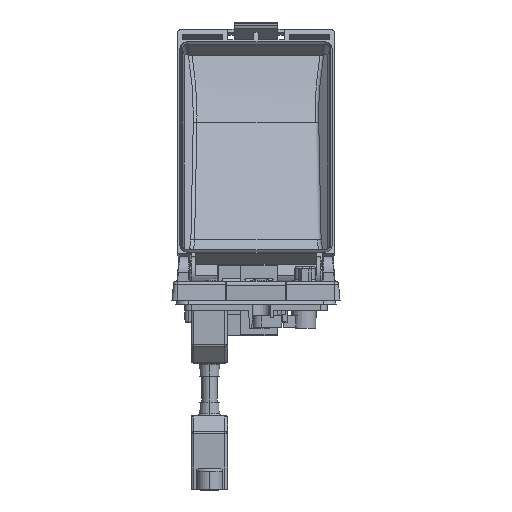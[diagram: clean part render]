
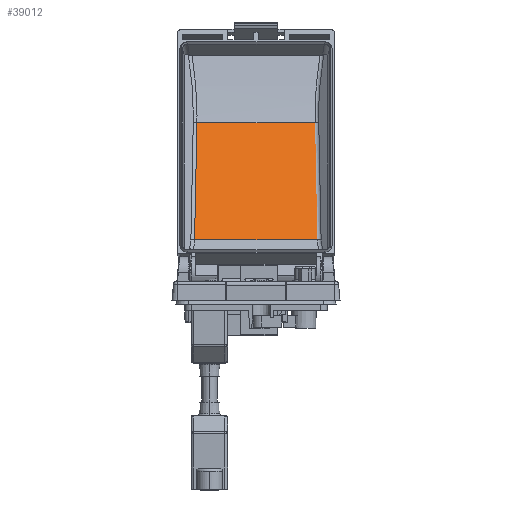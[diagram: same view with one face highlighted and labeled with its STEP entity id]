
A CAD part, left-side view. The second image highlights one B-rep face of the part: STEP entity #39012.
In plain terms, the highlighted planar face has unit normal (-0.865, 0, 0.502).
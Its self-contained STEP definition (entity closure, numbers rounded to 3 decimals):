
#340 = CARTESIAN_POINT ( 'NONE',  ( 89.141, 196.683, 46.264 ) ) ;
#3608 = DIRECTION ( 'NONE',  ( 0.502, -0.017, 0.865 ) ) ;
#5992 = CARTESIAN_POINT ( 'NONE',  ( 97.905, 189.435, 61.35 ) ) ;
#13393 = LINE ( 'NONE', #46398, #81624 ) ;
#14669 = EDGE_CURVE ( 'NONE', #28615, #97078, #21291, .T. ) ;
#15889 = ORIENTED_EDGE ( 'NONE', *, *, #46059, .F. ) ;
#19285 = CARTESIAN_POINT ( 'NONE',  ( 97.905, 196.988, 61.35 ) ) ;
#20793 = DIRECTION ( 'NONE',  ( 0.865, 0., -0.502 ) ) ;
#20997 = CARTESIAN_POINT ( 'NONE',  ( 97.905, 189.435, 61.35 ) ) ;
#21291 = B_SPLINE_CURVE_WITH_KNOTS ( 'NONE', 3,
 ( #91027, #45928, #340, #83144 ),
 .UNSPECIFIED., .F., .F.,
 ( 4, 4 ),
 ( 0., 1. ),
 .UNSPECIFIED. ) ;
#26241 = VERTEX_POINT ( 'NONE', #28118 ) ;
#28118 = CARTESIAN_POINT ( 'NONE',  ( 97.905, 242.682, 61.35 ) ) ;
#28615 = VERTEX_POINT ( 'NONE', #67814 ) ;
#39012 = ADVANCED_FACE ( 'NONE', ( #79140 ), #65817, .F. ) ;
#39332 = LINE ( 'NONE', #20997, #53492 ) ;
#45928 = CARTESIAN_POINT ( 'NONE',  ( 80.377, 196.379, 31.179 ) ) ;
#46059 = EDGE_CURVE ( 'NONE', #83287, #26241, #48970, .T. ) ;
#46398 = CARTESIAN_POINT ( 'NONE',  ( 71.612, 189.435, 16.093 ) ) ;
#48296 = ORIENTED_EDGE ( 'NONE', *, *, #65848, .F. ) ;
#48970 = LINE ( 'NONE', #49555, #69000 ) ;
#49555 = CARTESIAN_POINT ( 'NONE',  ( 71.612, 243.595, 16.093 ) ) ;
#50574 = AXIS2_PLACEMENT_3D ( 'NONE', #5992, #20793, #58905 ) ;
#51839 = DIRECTION ( 'NONE',  ( 0., 1., 0. ) ) ;
#53492 = VECTOR ( 'NONE', #51839, 1000. ) ;
#55284 = DIRECTION ( 'NONE',  ( 0., 1., 0. ) ) ;
#58526 = EDGE_CURVE ( 'NONE', #97078, #26241, #39332, .T. ) ;
#58905 = DIRECTION ( 'NONE',  ( -0.502, 0., -0.865 ) ) ;
#62487 = EDGE_LOOP ( 'NONE', ( #15889, #48296, #71172, #84823 ) ) ;
#65817 = PLANE ( 'NONE',  #50574 ) ;
#65848 = EDGE_CURVE ( 'NONE', #28615, #83287, #13393, .T. ) ;
#67814 = CARTESIAN_POINT ( 'NONE',  ( 71.612, 196.074, 16.093 ) ) ;
#69000 = VECTOR ( 'NONE', #3608, 1000. ) ;
#71172 = ORIENTED_EDGE ( 'NONE', *, *, #14669, .T. ) ;
#79140 = FACE_OUTER_BOUND ( 'NONE', #62487, .T. ) ;
#81624 = VECTOR ( 'NONE', #55284, 1000. ) ;
#83144 = CARTESIAN_POINT ( 'NONE',  ( 97.905, 196.988, 61.35 ) ) ;
#83287 = VERTEX_POINT ( 'NONE', #91535 ) ;
#84823 = ORIENTED_EDGE ( 'NONE', *, *, #58526, .T. ) ;
#91027 = CARTESIAN_POINT ( 'NONE',  ( 71.612, 196.074, 16.093 ) ) ;
#91535 = CARTESIAN_POINT ( 'NONE',  ( 71.612, 243.595, 16.093 ) ) ;
#97078 = VERTEX_POINT ( 'NONE', #19285 ) ;
